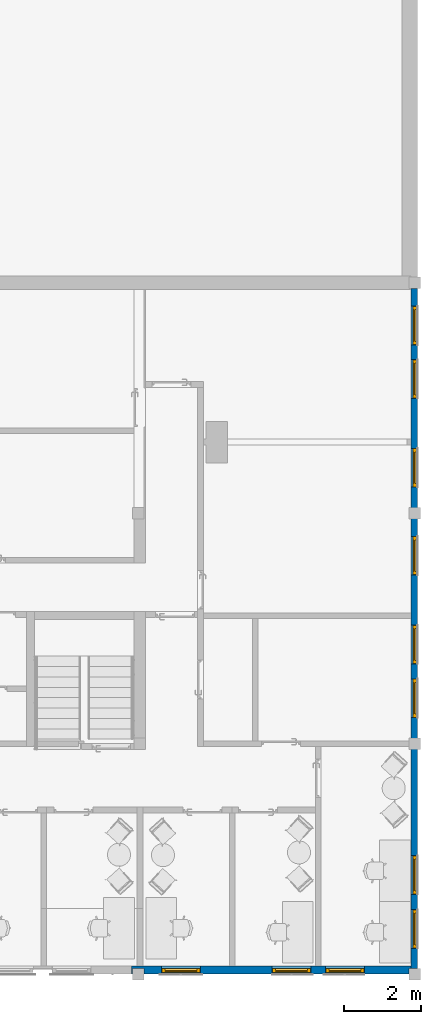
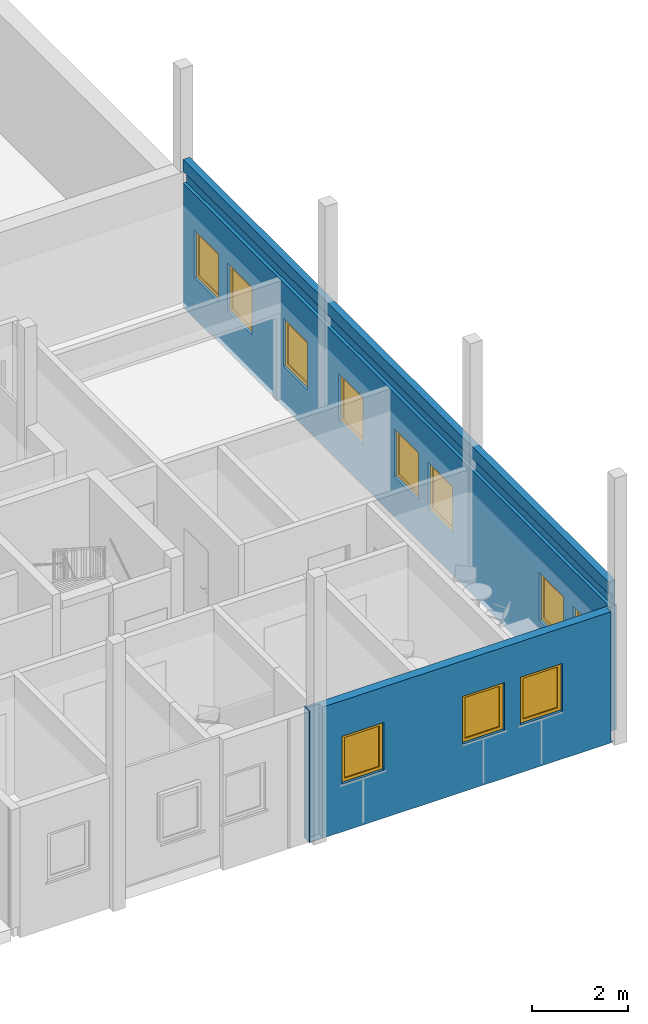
# One storey, part 37 of 58: 11 windows, 2 walls, 11 openings.
"""IFC2X3 building model written with IfcOpenShell, lengths in millimetres."""

from ifc_helpers import new_model, entity, si_unit, converted_unit, derived_unit, direction, frame, frame_2d, origin, origin_2d_with_axis, place, context, subcontext, project, spatial, polyline, rectangle, outline, extrude, faceted_brep, source, transform, mapped, material, material_list, layer, layer_set, type_object, type_shapes, element, fill, save


model = new_model("IFC2X3")

# Units and contexts
model_context = context("Model", 3, precision=0.01, world=origin(), true_north=direction((0.7716245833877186, 0.6360782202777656)))
body_context = subcontext(model_context, "Body", "Model", "MODEL_VIEW")
ifc_project = project(units=[si_unit("LENGTHUNIT", "METRE", prefix="MILLI"), si_unit("AREAUNIT", "SQUARE_METRE"), converted_unit("PLANEANGLEUNIT", "DEGREE", entity("IfcPlaneAngleMeasure", 0.017453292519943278), si_unit("PLANEANGLEUNIT", "RADIAN"), dimensions=[0, 0, 0, 0, 0, 0, 0]), derived_unit("THERMALTRANSMITTANCEUNIT", [(si_unit("MASSUNIT", "GRAM", prefix="KILO"), 1), (si_unit("THERMODYNAMICTEMPERATUREUNIT", "KELVIN"), -1), (si_unit("TIMEUNIT", "SECOND"), -3)])], contexts=[model_context])

# Site, building, storey
site_placement = place(None, origin())
site = spatial("IfcSite", under=ifc_project, at=site_placement, Name="Default", CompositionType="ELEMENT")
building_placement = place(site_placement, origin())
building = spatial("IfcBuilding", under=site, at=building_placement, CompositionType="ELEMENT")
storey_placement = place(building_placement, frame((0.0, 0.0, 31140.0)))
storey = spatial("IfcBuildingStorey", under=building, at=storey_placement, Name="PLAN U1", CompositionType="ELEMENT", Elevation=31140.000000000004)

# Wall, openings, windows
ifc_material_1 = material(Name="Beige Fasadeplater")
ifc_layer_1 = layer(ifc_material_1, 10.0)
ifc_material_2 = material(Name="Eksist. vegg")
ifc_layer_2 = layer(ifc_material_2, 190.00000000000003)
ifc_material_3 = material(Name="Gips")
ifc_layer_3 = layer(ifc_material_3, 12.0)
ifc_layer_set_1 = layer_set([ifc_layer_1, ifc_layer_2, ifc_layer_3], Name="Basic Wall:230 Eksist. yttervegg 200 mm")
wall_type_1 = type_object("IfcWallType", Name="Basic Wall:230 Eksist. yttervegg 200 mm", PredefinedType="STANDARD", material=ifc_layer_set_1)
wall_1_placement = place(storey_placement, frame((270545.924446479, 53421.25555007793, -318.8671585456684)))
wall_1 = element("IfcWall", 1, at=wall_1_placement, inside=storey, type_object=wall_type_1, Name="Basic Wall:230 Eksist. yttervegg 200 mm", ObjectType="Basic Wall:230 Eksist. yttervegg 200 mm", context=body_context, shape_type="Brep", body=[
    faceted_brep([(0.0, -106.0, 0.0), (7284.332901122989, -106.0, 0.0), (7284.332901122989, -106.0, 18.86715854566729), (7222.0, -106.0, 18.86715854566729), (7222.0, -106.0, 3318.8671585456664), (322.0, -106.0, 3318.8671585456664), (322.0, -106.0, 18.86715854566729), (22.0, -106.0, 18.86715854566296), (22.0, -106.0, 3318.8671585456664), (0.0, -106.0, 3318.8671585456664), (1794.6120309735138, -106.0, 1208.8671585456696), (784.6120309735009, -106.0, 1208.8671585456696), (784.6120309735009, -106.0, 2418.8671585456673), (1794.6120309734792, -106.0, 2418.8671585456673), (4674.612030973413, -106.0, 1208.8671585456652), (3664.6120309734, -106.0, 1208.8671585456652), (3664.6120309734, -106.0, 2418.867158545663), (4674.612030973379, -106.0, 2418.867158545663), (6064.612030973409, -106.0, 1208.8671585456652), (5054.612030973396, -106.0, 1208.8671585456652), (5054.612030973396, -106.0, 2418.867158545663), (6064.612030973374, -106.0, 2418.867158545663), (7284.332901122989, 106.0, 0.0), (0.0, 106.0, 0.0), (0.0, 106.0, 3318.8671585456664), (147.0, 106.0, 3318.8671585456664), (297.0, 106.0, 3318.8671585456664), (2547.0, 106.0, 3318.8671585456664), (2697.0, 106.0, 3318.8671585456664), (4787.0, 106.0, 3318.8671585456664), (4937.0, 106.0, 3318.8671585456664), (7284.332901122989, 106.0, 3318.8671585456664), (784.6120309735, 106.0, 1208.8671585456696), (1794.6120309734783, 106.0, 1208.8671585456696), (1794.612030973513, 106.0, 2418.8671585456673), (784.6120309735, 106.0, 2418.8671585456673), (3664.6120309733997, 106.0, 1208.8671585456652), (4674.612030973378, 106.0, 1208.8671585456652), (4674.612030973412, 106.0, 2418.867158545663), (3664.6120309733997, 106.0, 2418.867158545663), (5054.612030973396, 106.0, 1208.8671585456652), (6064.612030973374, 106.0, 1208.8671585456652), (6064.612030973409, 106.0, 2418.867158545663), (5054.612030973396, 106.0, 2418.867158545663), (22.0, 44.0, 3318.8671585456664), (322.0, 44.0, 3318.8671585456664), (7222.0, 44.0, 3318.8671585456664), (7284.332901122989, 44.0, 3318.8671585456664), (7284.332901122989, 44.0, 178.86715854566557), (7284.332901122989, 44.0, 18.86715854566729), (322.0, 44.0, 18.86715854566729), (22.0, 44.0, 18.86715854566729), (7222.0, 44.0, 18.86715854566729)], [[[0, 1, 2, 3, 4, 5, 6, 7, 8, 9], [10, 11, 12, 13], [14, 15, 16, 17], [18, 19, 20, 21]], [[22, 23, 24, 25, 26, 27, 28, 29, 30, 31], [32, 33, 34, 35], [36, 37, 38, 39], [40, 41, 42, 43]], [[1, 0, 23, 22]], [[0, 9, 24, 23]], [[33, 32, 11, 10]], [[32, 35, 12, 11]], [[35, 34, 13, 12]], [[34, 33, 10, 13]], [[37, 36, 15, 14]], [[36, 39, 16, 15]], [[39, 38, 17, 16]], [[38, 37, 14, 17]], [[41, 40, 19, 18]], [[40, 43, 20, 19]], [[43, 42, 21, 20]], [[42, 41, 18, 21]], [[24, 9, 8, 44, 45, 5, 4, 46, 47, 31, 30, 29, 28, 27, 26, 25]], [[1, 22, 31, 47, 48, 49, 2]], [[45, 50, 6, 5]], [[51, 44, 8, 7]], [[51, 50, 45, 44]], [[52, 46, 4, 3]], [[46, 52, 49, 48, 47]], [[50, 51, 7, 6]], [[49, 52, 3, 2]]]),
])
opening_1_placement = place(wall_1_placement, frame((784.6120309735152, -106.0, 1208.8671585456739)))
opening_1 = element("IfcOpeningElement", 2, at=opening_1_placement, cuts=wall_1, Name="234-Åpningsbart:10x12M Eks.:1", ObjectType="Opening", context=body_context, shape_type="SweptSolid", body=[
    extrude(rectangle(XDim=1209.9999999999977, YDim=1010.0000000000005, at=frame_2d((604.9999999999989, 505.0000000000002), x_axis=(1.0, 0.0))), frame((0.0, 0.0, 0.0), z_axis=(0.0, 1.0, 0.0), x_axis=(0.0, 0.0, 1.0)), (0.0, 0.0, 1.0), 212.0),
])
opening_2_placement = place(wall_1_placement, frame((3664.612030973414, -106.0, 1208.8671585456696)))
opening_2 = element("IfcOpeningElement", 3, at=opening_2_placement, cuts=wall_1, Name="234-Åpningsbart:10x12M Eks.:1", ObjectType="Opening", context=body_context, shape_type="SweptSolid", body=[
    extrude(rectangle(XDim=1209.9999999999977, YDim=1010.0000000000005, at=frame_2d((604.9999999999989, 505.0000000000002), x_axis=(1.0, 0.0))), frame((0.0, 0.0, 0.0), z_axis=(0.0, 1.0, 0.0), x_axis=(0.0, 0.0, 1.0)), (0.0, 0.0, 1.0), 212.0),
])
opening_3_placement = place(wall_1_placement, frame((5054.6120309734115, -106.0, 1208.8671585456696)))
opening_3 = element("IfcOpeningElement", 4, at=opening_3_placement, cuts=wall_1, Name="234-Åpningsbart:10x12M Eks.:1", ObjectType="Opening", context=body_context, shape_type="SweptSolid", body=[
    extrude(rectangle(XDim=1209.9999999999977, YDim=1010.0000000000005, at=frame_2d((604.9999999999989, 505.0000000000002), x_axis=(1.0, 0.0))), frame((0.0, 0.0, 0.0), z_axis=(0.0, 1.0, 0.0), x_axis=(0.0, 0.0, 1.0)), (0.0, 0.0, 1.0), 212.0),
])
ifc_material_4 = material(Name="Vinduskarm")
ifc_material_5 = material(Name="NO_Glass")
ifc_material_list = material_list([ifc_material_4, ifc_material_5])
window_style_1 = type_object("IfcWindowStyle", Name="234-Åpningsbart:10x12M Eks.", ConstructionType="NOTDEFINED", OperationType="NOTDEFINED", ParameterTakesPrecedence=False, Sizeable=False, material=ifc_material_list)
shared_shape_1 = source(origin(), body_context, "Body", "SweptSolid", [
    extrude(outline(polyline([(-555.0, -455.0), (555.0, -455.0), (555.0, 455.0), (-555.0, 455.0), (-555.0, -455.0)]), holes=[polyline([(515.0, -415.0), (-515.0, -415.0), (-515.0, 415.0), (515.0, 415.0), (515.0, -415.0)])]), frame((505.0, 62.0, 605.0), z_axis=(0.0, 1.0, 0.0), x_axis=(0.0, 0.0, 1.0)), (0.0, 0.0, 1.0), 100.0),
    extrude(rectangle(XDim=25.0, YDim=830.0000000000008, at=origin_2d_with_axis()), frame((505.0, 124.5000000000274, 90.0), z_axis=(0.0, 0.0, 1.0), x_axis=(0.0, 1.0, 0.0)), (0.0, 0.0, 1.0), 1030.0000000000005),
    extrude(outline(polyline([(-595.0, -495.0), (595.0, -495.0), (595.0, 495.0), (-595.0, 495.0), (-595.0, -495.0)]), holes=[polyline([(555.0, -455.0), (-555.0, -455.0), (-555.0, 455.0), (555.0, 455.0), (555.0, -455.0)])]), frame((505.0, 62.0, 605.0), z_axis=(0.0, 1.0, 0.0), x_axis=(0.0, 0.0, 1.0)), (0.0, 0.0, 1.0), 100.0),
])
type_shapes(window_style_1, [shared_shape_1])
window_1_placement = place(opening_1_placement, frame((1010.0, 212.0, 0.0), z_axis=(0.0, 0.0, 1.0), x_axis=(-1.0, 0.0, 0.0)))
window_1 = element("IfcWindow", 5, at=window_1_placement, inside=storey, type_object=window_style_1, material=ifc_material_list, Name="234-Åpningsbart:10x12M Eks.", ObjectType="234-Åpningsbart:10x12M Eks.", OverallHeight=1209.9999999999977, OverallWidth=1010.000000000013, context=body_context, shape_type="MappedRepresentation", body=[
    mapped(shared_shape_1, transform((0.0, 0.0, 0.0), scale=1.0)),
])
fill(opening_1, window_1)
window_2_placement = place(opening_2_placement, frame((1010.0, 212.0, 0.0), z_axis=(0.0, 0.0, 1.0), x_axis=(-1.0, 0.0, 0.0)))
window_2 = element("IfcWindow", 6, at=window_2_placement, inside=storey, type_object=window_style_1, material=ifc_material_list, Name="234-Åpningsbart:10x12M Eks.", ObjectType="234-Åpningsbart:10x12M Eks.", OverallHeight=1209.9999999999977, OverallWidth=1010.000000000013, context=body_context, shape_type="MappedRepresentation", body=[
    mapped(shared_shape_1, transform((0.0, 0.0, 0.0), scale=1.0)),
])
fill(opening_2, window_2)
window_3_placement = place(opening_3_placement, frame((1010.0, 212.0, 0.0), z_axis=(0.0, 0.0, 1.0), x_axis=(-1.0, 0.0, 0.0)))
window_3 = element("IfcWindow", 7, at=window_3_placement, inside=storey, type_object=window_style_1, material=ifc_material_list, Name="234-Åpningsbart:10x12M Eks.", ObjectType="234-Åpningsbart:10x12M Eks.", OverallHeight=1209.9999999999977, OverallWidth=1010.000000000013, context=body_context, shape_type="MappedRepresentation", body=[
    mapped(shared_shape_1, transform((0.0, 0.0, 0.0), scale=1.0)),
])
fill(opening_3, window_3)

ifc_layer_4 = layer(ifc_material_1, 160.0)
ifc_layer_set_2 = layer_set([ifc_layer_4], Name="Basic Wall:230 Eksist. yttervegg 160 mm")
wall_type_2 = type_object("IfcWallType", Name="Basic Wall:230 Eksist. yttervegg 160 mm", PredefinedType="STANDARD", material=ifc_layer_set_2)
wall_2_placement = place(storey_placement, frame((277910.25734760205, 53465.255550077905, -140.0), z_axis=(0.0, 0.0, 1.0), x_axis=(0.0, 1.0, 0.0)))
wall_2 = element("IfcWall", 8, at=wall_2_placement, inside=storey, type_object=wall_type_2, Name="Basic Wall:230 Eksist. yttervegg 160 mm", ObjectType="Basic Wall:230 Eksist. yttervegg 160 mm", context=body_context, shape_type="Brep", body=[
    faceted_brep([(17239.246089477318, -80.0, 2240.0), (17239.246089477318, -80.0, 1030.0), (16229.246089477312, -80.0, 1030.0), (16229.246089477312, -80.0, 2240.0), (15849.246089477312, -80.0, 2240.0), (15849.246089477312, -80.0, 1030.0), (14839.246089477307, -80.0, 1030.0), (14839.246089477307, -80.0, 2240.0), (13539.246089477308, -80.0, 2240.0), (13539.246089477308, -80.0, 1030.0), (12529.246089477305, -80.0, 1030.0), (12529.246089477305, -80.0, 2240.0), (11249.246089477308, -80.0, 2240.0), (11249.246089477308, -80.0, 1030.0), (10239.246089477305, -80.0, 1030.0), (10239.246089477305, -80.0, 2240.0), (8939.246089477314, -80.0, 2240.0), (8939.246089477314, -80.0, 1030.0), (7929.24608947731, -80.0, 1030.0), (7929.24608947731, -80.0, 2240.0), (7539.246089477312, -80.0, 2240.0), (7539.246089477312, -80.0, 1030.0), (6529.2460894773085, -80.0, 1030.0), (6529.2460894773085, -80.0, 2240.0), (2940.0, -80.0, 2240.0), (2940.0, -80.0, 1030.0), (1930.0, -80.0, 1030.0), (1930.0, -80.0, 2240.0), (520.0, -80.0, 1030.0), (520.0, -80.0, 2240.0), (1530.0, -80.0, 2240.0), (1530.0, -80.0, 1030.0), (17700.0, -80.0, 0.0), (17700.0, -80.0, 3140.0), (17700.0, -80.0, 3740.0), (12000.0, -80.0, 3740.0), (11700.0, -80.0, 3740.0), (6000.0, -80.0, 3740.0), (5700.0, -80.0, 3740.0), (62.0, -80.0, 3740.0), (62.0, -80.0, 3140.0), (0.0, -80.0, 3140.0), (0.0, -80.0, 0.0), (17239.246089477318, 80.0, 1030.0), (17239.246089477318, 80.0, 2240.0), (16229.246089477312, 80.0, 2240.0), (16229.246089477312, 80.0, 1030.0), (15849.246089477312, 80.0, 1030.0), (15849.246089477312, 80.0, 2240.0), (14839.246089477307, 80.0, 2240.0), (14839.246089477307, 80.0, 1030.0), (13539.246089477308, 80.0, 1030.0), (13539.246089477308, 80.0, 2240.0), (12529.246089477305, 80.0, 2240.0), (12529.246089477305, 80.0, 1030.0), (11249.246089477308, 80.0, 1030.0), (11249.246089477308, 80.0, 2240.0), (10239.246089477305, 80.0, 2240.0), (10239.246089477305, 80.0, 1030.0), (8939.246089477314, 80.0, 1030.0), (8939.246089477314, 80.0, 2240.0), (7929.24608947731, 80.0, 2240.0), (7929.24608947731, 80.0, 1030.0), (7539.246089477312, 80.0, 1030.0), (7539.246089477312, 80.0, 2240.0), (6529.2460894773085, 80.0, 2240.0), (6529.2460894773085, 80.0, 1030.0), (2940.0, 80.0, 1030.0), (2940.0, 80.0, 2240.0), (1930.0, 80.0, 2240.0), (1930.0, 80.0, 1030.0), (520.0, 80.0, 2240.0), (520.0, 80.0, 1030.0), (1530.0, 80.0, 1030.0), (1530.0, 80.0, 2240.0), (17700.0, 80.0, 3140.0), (17700.0, 80.0, 0.0), (0.0, 80.0, 0.0), (0.0, 80.0, 3140.0), (62.0, 80.0, 3140.0), (5775.0, 80.0, 3140.0), (5925.0, 80.0, 3140.0), (9105.46752165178, 80.0, 3140.0), (9255.467521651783, 80.0, 3140.0), (13628.167557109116, 80.0, 3140.0), (13778.167557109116, 80.0, 3140.0), (17700.0, 0.0, 3140.0), (17700.0, 0.0, 3440.0), (17700.0, 80.0, 3440.0), (17700.0, 80.0, 3740.0), (12000.0, 80.0, 3740.0), (11700.0, 80.0, 3740.0), (6000.0, 80.0, 3740.0), (5700.0, 80.0, 3740.0), (62.0, 80.0, 3740.0), (62.0, 80.0, 3440.0), (62.0, 0.0, 3440.0), (62.0, 0.0, 3140.0)], [[[0, 1, 2, 3], [4, 5, 6, 7], [8, 9, 10, 11], [12, 13, 14, 15], [16, 17, 18, 19], [20, 21, 22, 23], [24, 25, 26, 27], [28, 29, 30, 31], [32, 33, 34, 35, 36, 37, 38, 39, 40, 41, 42]], [[43, 44, 45, 46], [47, 48, 49, 50], [51, 52, 53, 54], [55, 56, 57, 58], [59, 60, 61, 62], [63, 64, 65, 66], [67, 68, 69, 70], [71, 72, 73, 74], [75, 76, 77, 78, 79, 80, 81, 82, 83, 84, 85]], [[76, 32, 42, 77]], [[34, 33, 32, 76, 75, 86, 87, 88, 89]], [[39, 38, 37, 36, 35, 34, 89, 90, 91, 92, 93, 94]], [[0, 44, 43, 1]], [[44, 0, 3, 45]], [[45, 3, 2, 46]], [[4, 48, 47, 5]], [[48, 4, 7, 49]], [[49, 7, 6, 50]], [[8, 52, 51, 9]], [[52, 8, 11, 53]], [[53, 11, 10, 54]], [[12, 56, 55, 13]], [[56, 12, 15, 57]], [[57, 15, 14, 58]], [[16, 60, 59, 17]], [[60, 16, 19, 61]], [[61, 19, 18, 62]], [[20, 64, 63, 21]], [[64, 20, 23, 65]], [[65, 23, 22, 66]], [[24, 68, 67, 25]], [[68, 24, 27, 69]], [[69, 27, 26, 70]], [[71, 29, 28, 72]], [[29, 71, 74, 30]], [[30, 74, 73, 31]], [[72, 28, 31, 73]], [[25, 67, 70, 26]], [[21, 63, 66, 22]], [[17, 59, 62, 18]], [[13, 55, 58, 14]], [[9, 51, 54, 10]], [[5, 47, 50, 6]], [[1, 43, 46, 2]], [[40, 39, 94, 95, 96, 97]], [[87, 86, 97, 96]], [[42, 41, 78, 77]], [[87, 96, 95, 88]], [[86, 75, 85, 84, 83, 82, 81, 80, 79, 78, 41, 40, 97]], [[94, 93, 92, 91, 90, 89, 88, 95]]], outer=[[False, False, False, False, False, False, False, False, True], [False, False, False, False, False, False, False, False, True], [True], [True], [True], [True], [True], [True], [True], [True], [True], [True], [True], [True], [True], [True], [True], [True], [True], [True], [True], [True], [True], [True], [True], [True], [True], [True], [True], [True], [True], [True], [True], [True], [True], [True], [True], [True], [True], [True], [True], [True], [True]]),
])
opening_4_placement = place(wall_2_placement, frame((1530.0, 80.0, 1030.0)))
opening_4 = element("IfcOpeningElement", 9, at=opening_4_placement, cuts=wall_2, Name="234-Åpningsbart:10x12M Eks.:1", ObjectType="Opening", context=body_context, shape_type="SweptSolid", body=[
    extrude(rectangle(XDim=1209.9999999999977, YDim=1010.0000000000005, at=frame_2d((604.9999999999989, 505.0000000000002), x_axis=(1.0, 0.0))), frame((0.0, 0.0, 0.0), z_axis=(0.0, -1.0, 0.0), x_axis=(0.0, 0.0, 1.0)), (0.0, 0.0, 1.0), 160.0),
])
opening_5_placement = place(wall_2_placement, frame((2940.0, 80.0, 1030.0)))
opening_5 = element("IfcOpeningElement", 10, at=opening_5_placement, cuts=wall_2, Name="234-Åpningsbart:10x12M Eks.:1", ObjectType="Opening", context=body_context, shape_type="SweptSolid", body=[
    extrude(rectangle(XDim=1209.9999999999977, YDim=1010.0000000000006, at=frame_2d((604.9999999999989, 505.00000000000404), x_axis=(1.0, 0.0))), frame((0.0, 0.0, 0.0), z_axis=(0.0, -1.0, 0.0), x_axis=(0.0, 0.0, 1.0)), (0.0, 0.0, 1.0), 160.0),
])
opening_6_placement = place(wall_2_placement, frame((7539.246089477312, 80.0, 1030.0)))
opening_6 = element("IfcOpeningElement", 11, at=opening_6_placement, cuts=wall_2, Name="234-Åpningsbart:10x12M Eks.:1", ObjectType="Opening", context=body_context, shape_type="SweptSolid", body=[
    extrude(rectangle(XDim=1209.9999999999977, YDim=1010.0000000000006, at=frame_2d((604.9999999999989, 505.00000000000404), x_axis=(1.0, 0.0))), frame((0.0, 0.0, 0.0), z_axis=(0.0, -1.0, 0.0), x_axis=(0.0, 0.0, 1.0)), (0.0, 0.0, 1.0), 160.0),
])
opening_7_placement = place(wall_2_placement, frame((8939.246089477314, 80.0, 1030.0)))
opening_7 = element("IfcOpeningElement", 12, at=opening_7_placement, cuts=wall_2, Name="234-Åpningsbart:10x12M Eks.:1", ObjectType="Opening", context=body_context, shape_type="SweptSolid", body=[
    extrude(rectangle(XDim=1209.9999999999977, YDim=1010.0000000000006, at=frame_2d((604.9999999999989, 505.00000000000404), x_axis=(1.0, 0.0))), frame((0.0, 0.0, 0.0), z_axis=(0.0, -1.0, 0.0), x_axis=(0.0, 0.0, 1.0)), (0.0, 0.0, 1.0), 160.0),
])
opening_8_placement = place(wall_2_placement, frame((11249.246089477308, 80.0, 1030.0)))
opening_8 = element("IfcOpeningElement", 13, at=opening_8_placement, cuts=wall_2, Name="234-Åpningsbart:10x12M Eks.:1", ObjectType="Opening", context=body_context, shape_type="SweptSolid", body=[
    extrude(rectangle(XDim=1209.9999999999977, YDim=1010.0000000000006, at=frame_2d((604.9999999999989, 505.00000000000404), x_axis=(1.0, 0.0))), frame((0.0, 0.0, 0.0), z_axis=(0.0, -1.0, 0.0), x_axis=(0.0, 0.0, 1.0)), (0.0, 0.0, 1.0), 160.0),
])
opening_9_placement = place(wall_2_placement, frame((13539.246089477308, 80.0, 1030.0)))
opening_9 = element("IfcOpeningElement", 14, at=opening_9_placement, cuts=wall_2, Name="234-Åpningsbart:10x12M Eks.:1", ObjectType="Opening", context=body_context, shape_type="SweptSolid", body=[
    extrude(rectangle(XDim=1209.9999999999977, YDim=1010.0000000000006, at=frame_2d((604.9999999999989, 505.00000000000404), x_axis=(1.0, 0.0))), frame((0.0, 0.0, 0.0), z_axis=(0.0, -1.0, 0.0), x_axis=(0.0, 0.0, 1.0)), (0.0, 0.0, 1.0), 160.0),
])
opening_10_placement = place(wall_2_placement, frame((15849.246089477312, 80.0, 1030.0)))
opening_10 = element("IfcOpeningElement", 15, at=opening_10_placement, cuts=wall_2, Name="234-Åpningsbart:10x12M Eks.:1", ObjectType="Opening", context=body_context, shape_type="SweptSolid", body=[
    extrude(rectangle(XDim=1209.9999999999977, YDim=1010.0000000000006, at=frame_2d((604.9999999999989, 505.00000000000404), x_axis=(1.0, 0.0))), frame((0.0, 0.0, 0.0), z_axis=(0.0, -1.0, 0.0), x_axis=(0.0, 0.0, 1.0)), (0.0, 0.0, 1.0), 160.0),
])
opening_11_placement = place(wall_2_placement, frame((17239.246089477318, 80.0, 1030.0)))
opening_11 = element("IfcOpeningElement", 16, at=opening_11_placement, cuts=wall_2, Name="234-Åpningsbart:10x12M Eks.:1", ObjectType="Opening", context=body_context, shape_type="SweptSolid", body=[
    extrude(rectangle(XDim=1209.9999999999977, YDim=1010.0000000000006, at=frame_2d((604.9999999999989, 505.00000000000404), x_axis=(1.0, 0.0))), frame((0.0, 0.0, 0.0), z_axis=(0.0, -1.0, 0.0), x_axis=(0.0, 0.0, 1.0)), (0.0, 0.0, 1.0), 160.0),
])
window_style_2 = type_object("IfcWindowStyle", Name="234-Åpningsbart:10x12M Eks.", ConstructionType="NOTDEFINED", OperationType="NOTDEFINED", ParameterTakesPrecedence=False, Sizeable=False, material=ifc_material_list)
shared_shape_2 = source(origin(), body_context, "Body", "SweptSolid", [
    extrude(outline(polyline([(-555.0, -455.0), (555.0, -455.0), (555.0, 455.0), (-555.0, 455.0), (-555.0, -455.0)]), holes=[polyline([(515.0, -415.0), (-515.0, -415.0), (-515.0, 415.0), (515.0, 415.0), (515.0, -415.0)])]), frame((505.0, 10.0, 605.0), z_axis=(0.0, 1.0, 0.0), x_axis=(0.0, 0.0, 1.0)), (0.0, 0.0, 1.0), 100.0),
    extrude(rectangle(XDim=25.0, YDim=830.0000000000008, at=origin_2d_with_axis()), frame((505.0, 72.50000000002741, 90.0), z_axis=(0.0, 0.0, 1.0), x_axis=(0.0, 1.0, 0.0)), (0.0, 0.0, 1.0), 1030.0000000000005),
    extrude(outline(polyline([(-595.0, -495.0), (595.0, -495.0), (595.0, 495.0), (-595.0, 495.0), (-595.0, -495.0)]), holes=[polyline([(555.0, -455.0), (-555.0, -455.0), (-555.0, 455.0), (555.0, 455.0), (555.0, -455.0)])]), frame((505.0, 10.0, 605.0), z_axis=(0.0, 1.0, 0.0), x_axis=(0.0, 0.0, 1.0)), (0.0, 0.0, 1.0), 100.00000000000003),
])
type_shapes(window_style_2, [shared_shape_2])
window_4_placement = place(opening_4_placement, frame((-1010.0, -160.0, 0.0)))
window_4 = element("IfcWindow", 17, at=window_4_placement, inside=storey, type_object=window_style_2, material=ifc_material_list, Name="234-Åpningsbart:10x12M Eks.", ObjectType="234-Åpningsbart:10x12M Eks.", OverallHeight=1209.9999999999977, OverallWidth=1010.0000000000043, context=body_context, shape_type="MappedRepresentation", body=[
    mapped(shared_shape_2, transform((0.0, 0.0, 0.0), scale=1.0)),
])
fill(opening_4, window_4)
window_style_3 = type_object("IfcWindowStyle", Name="234-Åpningsbart:10x12M Eks.", ConstructionType="NOTDEFINED", OperationType="NOTDEFINED", ParameterTakesPrecedence=False, Sizeable=False, material=ifc_material_list)
shared_shape_3 = source(origin(), body_context, "Body", "SweptSolid", [
    extrude(outline(polyline([(-455.0, -555.0), (455.0, -555.0), (455.0, 555.0), (-455.0, 555.0), (-455.0, -555.0)]), holes=[polyline([(-415.0, 515.0), (415.0, 515.0), (415.0, -515.0), (-415.0, -515.0), (-415.0, 515.0)])]), frame((545.0, 110.0, 605.0), z_axis=(0.0, -1.0, 0.0), x_axis=(-1.0, 0.0, 0.0)), (0.0, 0.0, 1.0), 100.0),
    extrude(rectangle(XDim=830.0000000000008, YDim=25.0, at=origin_2d_with_axis()), frame((545.0, 72.50000000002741, 90.0)), (0.0, 0.0, 1.0), 1030.0000000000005),
    extrude(outline(polyline([(-495.0, -595.0), (495.0, -595.0), (495.0, 595.0), (-495.0, 595.0), (-495.0, -595.0)]), holes=[polyline([(-455.0, 555.0), (455.0, 555.0), (455.0, -555.0), (-455.0, -555.0), (-455.0, 555.0)])]), frame((545.0, 110.0, 605.0), z_axis=(0.0, -1.0, 0.0), x_axis=(-1.0, 0.0, 0.0)), (0.0, 0.0, 1.0), 100.00000000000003),
])
type_shapes(window_style_3, [shared_shape_3])
window_5_placement = place(opening_5_placement, frame((-1050.0, -160.0, 0.0)))
window_5 = element("IfcWindow", 18, at=window_5_placement, inside=storey, type_object=window_style_3, material=ifc_material_list, Name="234-Åpningsbart:10x12M Eks.", ObjectType="234-Åpningsbart:10x12M Eks.", OverallHeight=1209.9999999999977, OverallWidth=1010.0000000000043, context=body_context, shape_type="MappedRepresentation", body=[
    mapped(shared_shape_3, transform((0.0, 0.0, 0.0), scale=1.0)),
])
fill(opening_5, window_5)
window_6_placement = place(opening_6_placement, frame((-1050.0, -160.0, 0.0)))
window_6 = element("IfcWindow", 19, at=window_6_placement, inside=storey, type_object=window_style_3, material=ifc_material_list, Name="234-Åpningsbart:10x12M Eks.", ObjectType="234-Åpningsbart:10x12M Eks.", OverallHeight=1209.9999999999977, OverallWidth=1010.0000000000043, context=body_context, shape_type="MappedRepresentation", body=[
    mapped(shared_shape_3, transform((0.0, 0.0, 0.0), scale=1.0)),
])
fill(opening_6, window_6)
window_7_placement = place(opening_7_placement, frame((-1050.0, -160.0, 0.0)))
window_7 = element("IfcWindow", 20, at=window_7_placement, inside=storey, type_object=window_style_3, material=ifc_material_list, Name="234-Åpningsbart:10x12M Eks.", ObjectType="234-Åpningsbart:10x12M Eks.", OverallHeight=1209.9999999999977, OverallWidth=1010.0000000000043, context=body_context, shape_type="MappedRepresentation", body=[
    mapped(shared_shape_3, transform((0.0, 0.0, 0.0), scale=1.0)),
])
fill(opening_7, window_7)
window_8_placement = place(opening_8_placement, frame((-1050.0, -160.0, 0.0)))
window_8 = element("IfcWindow", 21, at=window_8_placement, inside=storey, type_object=window_style_3, material=ifc_material_list, Name="234-Åpningsbart:10x12M Eks.", ObjectType="234-Åpningsbart:10x12M Eks.", OverallHeight=1209.9999999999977, OverallWidth=1010.0000000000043, context=body_context, shape_type="MappedRepresentation", body=[
    mapped(shared_shape_3, transform((0.0, 0.0, 0.0), scale=1.0)),
])
fill(opening_8, window_8)
window_9_placement = place(opening_9_placement, frame((-1050.0, -160.0, 0.0)))
window_9 = element("IfcWindow", 22, at=window_9_placement, inside=storey, type_object=window_style_3, material=ifc_material_list, Name="234-Åpningsbart:10x12M Eks.", ObjectType="234-Åpningsbart:10x12M Eks.", OverallHeight=1209.9999999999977, OverallWidth=1010.0000000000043, context=body_context, shape_type="MappedRepresentation", body=[
    mapped(shared_shape_3, transform((0.0, 0.0, 0.0), scale=1.0)),
])
fill(opening_9, window_9)
window_10_placement = place(opening_10_placement, frame((-1050.0, -160.0, 0.0)))
window_10 = element("IfcWindow", 23, at=window_10_placement, inside=storey, type_object=window_style_3, material=ifc_material_list, Name="234-Åpningsbart:10x12M Eks.", ObjectType="234-Åpningsbart:10x12M Eks.", OverallHeight=1209.9999999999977, OverallWidth=1010.0000000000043, context=body_context, shape_type="MappedRepresentation", body=[
    mapped(shared_shape_3, transform((0.0, 0.0, 0.0), scale=1.0)),
])
fill(opening_10, window_10)
window_11_placement = place(opening_11_placement, frame((-1050.0, -160.0, 0.0)))
window_11 = element("IfcWindow", 24, at=window_11_placement, inside=storey, type_object=window_style_3, material=ifc_material_list, Name="234-Åpningsbart:10x12M Eks.", ObjectType="234-Åpningsbart:10x12M Eks.", OverallHeight=1209.9999999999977, OverallWidth=1010.0000000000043, context=body_context, shape_type="MappedRepresentation", body=[
    mapped(shared_shape_3, transform((0.0, 0.0, 0.0), scale=1.0)),
])
fill(opening_11, window_11)

save(model, "model.ifc")
